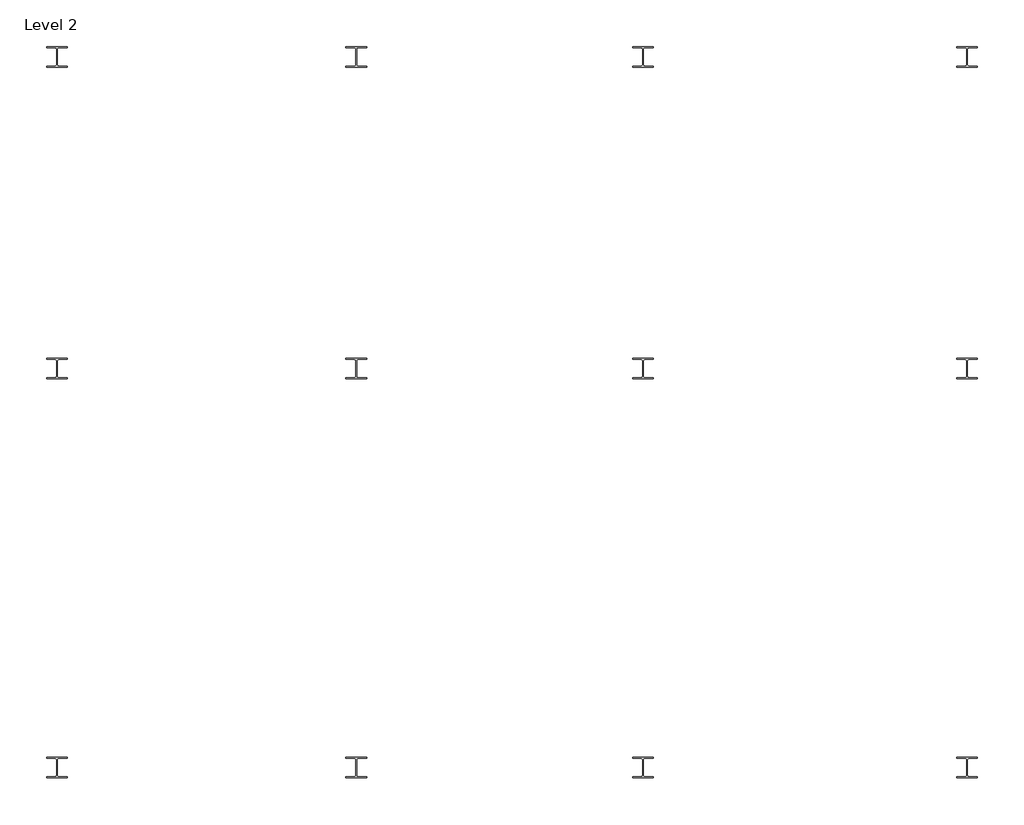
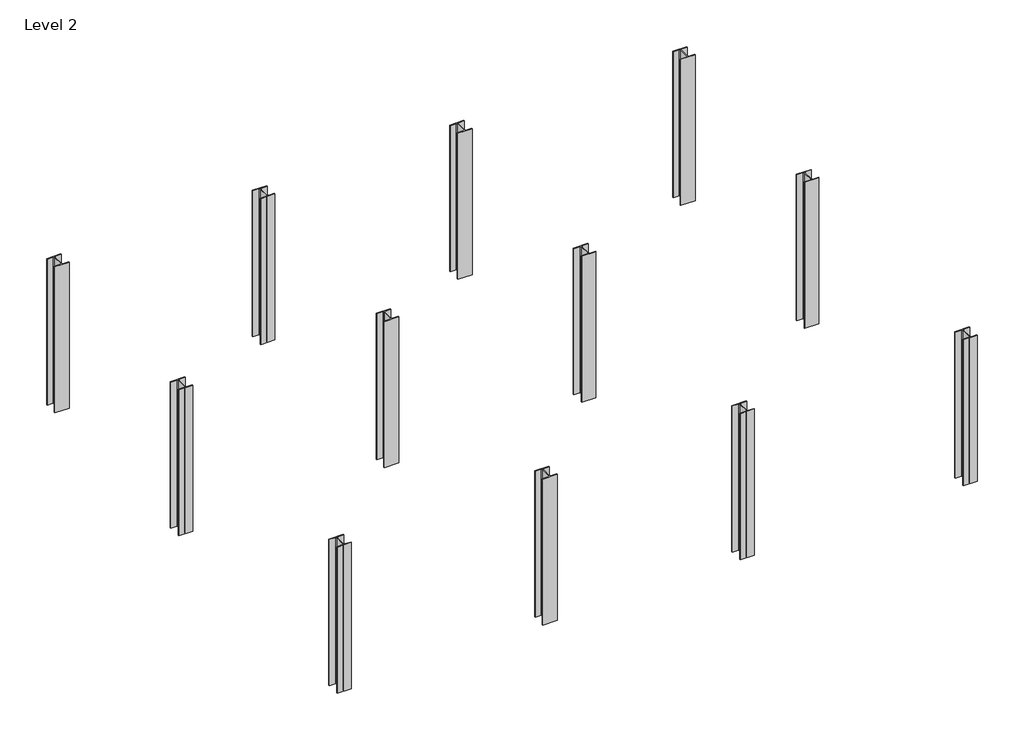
# One storey: 12 columns.
"""IFC4 building model written with IfcOpenShell, lengths in millimetres."""

import ifcopenshell
import ifcopenshell.guid

model = None  # the IFC model being written
_history = None  # IfcOwnerHistory: only IFC2X3 demands one
_inside = {}  # id of a spatial element -> (the spatial element, [elements in it])
_under = {}  # id of a project, library or spatial element -> (it, [spatial elements below it])
_declared = {}  # id of a project -> (the project, [libraries it declares])
_typed = {}  # id of a type object -> (the type object, [elements of that type])
_made_of = {}  # id of a material, layer set ... -> (it, [elements and type objects made of it])


def new_model(schema):
    """Start an empty IFC model of exactly this schema.

    Asked for "IFC4X3", IfcOpenShell would pick the latest addendum, in which some entities
    have other attributes; the version numbers below select the first issue.
    IFC2X3 requires an IfcOwnerHistory on every rooted entity: one is made here for all.
    """
    global model, _history
    if schema == "IFC4X3":
        model = ifcopenshell.file(schema_version=(4, 3, 0, 0))
    else:
        model = ifcopenshell.file(schema=schema)
    _inside.clear()
    _under.clear()
    _declared.clear()
    _typed.clear()
    _made_of.clear()
    _history = None
    if model.schema == "IFC2X3":
        org = make("IfcOrganization", Name="unknown")
        user = make(
            "IfcPersonAndOrganization",
            ThePerson=make("IfcPerson", FamilyName="unknown"),
            TheOrganization=org,
        )
        app = make(
            "IfcApplication",
            ApplicationDeveloper=org,
            Version="unknown",
            ApplicationFullName="unknown",
            ApplicationIdentifier="unknown",
        )
        _history = make(
            "IfcOwnerHistory",
            OwningUser=user,
            OwningApplication=app,
            ChangeAction="ADDED",
            CreationDate=0,
        )
    return model


def make(cls, **values):
    """One entity of the class cls with the attributes given. An attribute that is None is left unset."""
    return model.create_entity(
        cls, **{name: value for name, value in values.items() if value is not None}
    )


def rooted(cls, **values):
    """An entity with a GlobalId (a new one), such as an element, a storey or a relation."""
    return make(cls, GlobalId=ifcopenshell.guid.new(), OwnerHistory=_history, **values)


def si_unit(unit_type, name, prefix=None):
    """IfcSIUnit, for example si_unit("LENGTHUNIT", "METRE", prefix="MILLI")."""
    return make("IfcSIUnit", UnitType=unit_type, Prefix=prefix, Name=name)


def assignment(units):
    """IfcUnitAssignment: the units of a project."""
    return None if units is None else make("IfcUnitAssignment", Units=units)


def point(xyz):
    """IfcCartesianPoint."""
    return None if xyz is None else make("IfcCartesianPoint", Coordinates=xyz)


def direction(xyz):
    """IfcDirection."""
    return None if xyz is None else make("IfcDirection", DirectionRatios=xyz)


def frame(location, z_axis=None, x_axis=None):
    """IfcAxis2Placement3D, a coordinate frame: its origin and axes. An axis left out is left unset."""
    return make(
        "IfcAxis2Placement3D",
        Location=point(location),
        Axis=direction(z_axis),
        RefDirection=direction(x_axis),
    )


def frame_2d(location, x_axis=None):
    """IfcAxis2Placement2D, a coordinate frame in the plane: its origin and x axis."""
    return make(
        "IfcAxis2Placement2D", Location=point(location), RefDirection=direction(x_axis)
    )


def origin():
    """The frame at (0, 0, 0) with its axes left unset."""
    return frame((0.0, 0.0, 0.0))


def place(relative_to, where):
    """IfcLocalPlacement: puts the frame where relative to a parent placement (None: the world)."""
    return make(
        "IfcLocalPlacement", PlacementRelTo=relative_to, RelativePlacement=where
    )


def context(
    kind, dimensions, precision=None, world=None, true_north=None, identifier=None
):
    """IfcGeometricRepresentationContext, for example the 3D "Model" context."""
    return make(
        "IfcGeometricRepresentationContext",
        ContextIdentifier=identifier,
        ContextType=kind,
        CoordinateSpaceDimension=dimensions,
        Precision=precision,
        WorldCoordinateSystem=world,
        TrueNorth=true_north,
    )


def project(units=None, contexts=None):
    """IfcProject with its units and contexts."""
    return rooted(
        "IfcProject",
        Name="project",
        RepresentationContexts=contexts,
        UnitsInContext=assignment(units),
    )


def spatial(cls, under=None, at=None, **own):
    """A site, building, storey or space (cls), placed at a placement, below another one or the project."""
    s = rooted(cls, ObjectPlacement=at, **own)
    if under is not None:
        _under.setdefault(under.id(), (under, []))[1].append(s)
    return s


def polyline(points):
    """IfcPolyline through the points."""
    return make("IfcPolyline", Points=[point(p) for p in points])


def circle_curve(where, radius):
    """IfcCircle in the frame where."""
    return make("IfcCircle", Position=where, Radius=radius)


def trimmed(basis, trim1, trim2, sense, master):
    """IfcTrimmedCurve: the piece of a basis curve between two trims."""
    return make(
        "IfcTrimmedCurve",
        BasisCurve=basis,
        Trim1=trim1,
        Trim2=trim2,
        SenseAgreement=sense,
        MasterRepresentation=master,
    )


def segment(curve, same_sense, transition):
    """IfcCompositeCurveSegment."""
    return make(
        "IfcCompositeCurveSegment",
        Transition=transition,
        SameSense=same_sense,
        ParentCurve=curve,
    )


def composite_curve(segments, self_intersect=None):
    """IfcCompositeCurve: segments joined end to end."""
    return make("IfcCompositeCurve", Segments=segments, SelfIntersect=self_intersect)


def outline(outer, holes=None, kind="AREA"):
    """IfcArbitraryClosedProfileDef: a profile drawn as a closed curve; with holes, ...WithVoids."""
    if holes is None:
        return make("IfcArbitraryClosedProfileDef", ProfileType=kind, OuterCurve=outer)
    return make(
        "IfcArbitraryProfileDefWithVoids",
        ProfileType=kind,
        OuterCurve=outer,
        InnerCurves=holes,
    )


def extrude(swept, where, along, depth):
    """IfcExtrudedAreaSolid: the profile swept, set in the frame where, extruded along a direction by depth."""
    return make(
        "IfcExtrudedAreaSolid",
        SweptArea=swept,
        Position=where,
        ExtrudedDirection=direction(along),
        Depth=depth,
    )


def shape(context_of_items, identifier, shape_type, items):
    """IfcShapeRepresentation: the items that make up one representation, for example the "Body"."""
    return make(
        "IfcShapeRepresentation",
        ContextOfItems=context_of_items,
        RepresentationIdentifier=identifier,
        RepresentationType=shape_type,
        Items=items,
    )


def source(mapping_origin, context_of_items, identifier, shape_type, items):
    """IfcRepresentationMap: a shape defined once, which mapped items show again and again."""
    return make(
        "IfcRepresentationMap",
        MappingOrigin=mapping_origin,
        MappedRepresentation=shape(context_of_items, identifier, shape_type, items),
    )


def transform(
    local_origin,
    x_axis=None,
    y_axis=None,
    z_axis=None,
    scale=None,
    scale2=None,
    scale3=None,
    uniform=True,
):
    """IfcCartesianTransformationOperator3D, or its non-uniform kind. x_axis, y_axis, z_axis: its Axis1, 2, 3."""
    if uniform:
        return make(
            "IfcCartesianTransformationOperator3D",
            Axis1=direction(x_axis),
            Axis2=direction(y_axis),
            LocalOrigin=point(local_origin),
            Scale=scale,
            Axis3=direction(z_axis),
        )
    return make(
        "IfcCartesianTransformationOperator3DnonUniform",
        Axis1=direction(x_axis),
        Axis2=direction(y_axis),
        LocalOrigin=point(local_origin),
        Scale=scale,
        Axis3=direction(z_axis),
        Scale2=scale2,
        Scale3=scale3,
    )


def mapped(mapping_source, mapping_target):
    """IfcMappedItem: shows the shape of a source again, moved by a transform."""
    return make(
        "IfcMappedItem", MappingSource=mapping_source, MappingTarget=mapping_target
    )


def made_of(thing, what):
    """Note that an element or type object is made of a material, layer set ...; save() writes the relation."""
    if what is not None:
        _made_of.setdefault(what.id(), (what, []))[1].append(thing)
    return thing


def element(
    cls,
    number,
    at=None,
    inside=None,
    cuts=None,
    type_object=None,
    material=None,
    context=None,
    identifier="Body",
    shape_type=None,
    held_by="IfcProductDefinitionShape",
    body=None,
    shapes=None,
    **own,
):
    """One element of the class cls, such as IfcWall. Its Tag is "e" and its number.

    at: its placement. inside: the storey or other place that contains it. cuts: it is an
    opening in that element (IfcRelVoidsElement). A single representation is given by context,
    identifier, shape_type and body (its items); several are given by shapes. held_by: the class
    of the entity that holds the representations. save() writes the other relations.
    """
    e = rooted(cls, Tag="e%d" % number, ObjectPlacement=at, **own)
    if body is not None:
        shapes = [shape(context, identifier, shape_type, body)]
    if shapes is not None:
        e.Representation = make(held_by, Representations=shapes)
    if inside is not None:
        _inside.setdefault(inside.id(), (inside, []))[1].append(e)
    if cuts is not None:
        rooted(
            "IfcRelVoidsElement", RelatingBuildingElement=cuts, RelatedOpeningElement=e
        )
    if type_object is not None:
        _typed.setdefault(type_object.id(), (type_object, []))[1].append(e)
    return made_of(e, material)


def aggregate(whole, parts):
    """IfcRelAggregates: a whole, such as a stair, and the parts it consists of."""
    return rooted("IfcRelAggregates", RelatingObject=whole, RelatedObjects=parts)


def save(model, path):
    """Write the relations noted so far, then the file.

    IfcRelAggregates (storeys below a building ...), IfcRelContainedInSpatialStructure (elements
    in a storey), IfcRelDefinesByType, IfcRelAssociatesMaterial and IfcRelDeclares: one each for
    every whole, place, type object, material and project.
    """
    for whole, parts in _under.values():
        aggregate(whole, parts)
    for where, things in _inside.values():
        rooted(
            "IfcRelContainedInSpatialStructure",
            RelatedElements=things,
            RelatingStructure=where,
        )
    for kind, things in _typed.values():
        rooted("IfcRelDefinesByType", RelatedObjects=things, RelatingType=kind)
    for what, things in _made_of.values():
        rooted("IfcRelAssociatesMaterial", RelatedObjects=things, RelatingMaterial=what)
    for by, libraries in _declared.values():
        rooted("IfcRelDeclares", RelatingContext=by, RelatedDefinitions=libraries)
    model.write(path)


def w_wide_flange_column_w10x49_e1ac2cb3(model_context):
    return source(origin(), model_context, "Body", "SweptSolid", [
        extrude(outline(composite_curve([segment(polyline([(127.0, 126.7519531), (127.0, 112.5636719), (21.8777344, 112.5636719)]), True, "CONTINUOUS"), segment(trimmed(circle_curve(frame_2d((21.8777344, 95.0019531)), 17.5617188), [point((21.8777344, 112.5636719))], [point((4.3160156, 95.0019531))], True, "CARTESIAN"), True, "CONTINUOUS"), segment(polyline([(4.3160156, 95.0019531), (4.3160156, -95.0019531)]), True, "CONTINUOUS"), segment(trimmed(circle_curve(frame_2d((21.8777344, -95.0019531)), 17.5617187), [point((4.3160156, -95.0019531))], [point((21.8777344, -112.5636719))], True, "CARTESIAN"), True, "CONTINUOUS"), segment(polyline([(21.8777344, -112.5636719), (127.0, -112.5636719), (127.0, -126.7519531), (-127.0, -126.7519531), (-127.0, -112.5636719), (-21.8777344, -112.5636719)]), True, "CONTINUOUS"), segment(trimmed(circle_curve(frame_2d((-21.8777344, -95.0019531)), 17.5617187), [point((-21.8777344, -112.5636719))], [point((-4.3160156, -95.0019531))], True, "CARTESIAN"), True, "CONTINUOUS"), segment(polyline([(-4.3160156, -95.0019531), (-4.3160156, 95.0019531)]), True, "CONTINUOUS"), segment(trimmed(circle_curve(frame_2d((-21.8777344, 95.0019531)), 17.5617188), [point((-4.3160156, 95.0019531))], [point((-21.8777344, 112.5636719))], True, "CARTESIAN"), True, "CONTINUOUS"), segment(polyline([(-21.8777344, 112.5636719), (-127.0, 112.5636719), (-127.0, 126.7519531), (127.0, 126.7519531)]), True, "CONTINUOUS")], self_intersect=False)), frame((0.0, 0.0, 304.8), z_axis=(0.0, 0.0, 1.0), x_axis=(1.0, 0.0, 0.0)), (0.0, 0.0, 1.0), 2743.2),
    ])


model = new_model("IFC4")

# Units and contexts
model_context = context("Model", 3, world=origin())
ifc_project = project(units=[si_unit("LENGTHUNIT", "METRE", prefix="MILLI")], contexts=[model_context])

# Site, building, storey
site = spatial("IfcSite", under=ifc_project)
building = spatial("IfcBuilding", under=site)
storey = spatial("IfcBuildingStorey", under=building, Name="Level 2", Elevation=3048.0)

# Columns
placement = place(None, origin())
w_wide_flange_column_w10x49_shape = w_wide_flange_column_w10x49_e1ac2cb3(model_context)
element("IfcColumn", 1, ObjectType="W-Wide Flange-Column : W10X49", at=placement, inside=storey, context=model_context, shape_type="MappedRepresentation", body=[
    mapped(w_wide_flange_column_w10x49_shape, transform((-14865.9414285, 19321.7403934, 0.0), x_axis=(1.0, 0.0, 0.0), y_axis=(0.0, 1.0, 0.0), z_axis=(0.0, 0.0, 1.0))),
])
element("IfcColumn", 2, ObjectType="W-Wide Flange-Column : W10X49", at=placement, inside=storey, context=model_context, shape_type="MappedRepresentation", body=[
    mapped(w_wide_flange_column_w10x49_shape, transform((-14865.9414285, 15511.7403934, 0.0), x_axis=(1.0, 0.0, 0.0), y_axis=(0.0, 1.0, 0.0), z_axis=(0.0, 0.0, 1.0))),
])
element("IfcColumn", 3, ObjectType="W-Wide Flange-Column : W10X49", at=placement, inside=storey, context=model_context, shape_type="MappedRepresentation", body=[
    mapped(w_wide_flange_column_w10x49_shape, transform((-14865.9414285, 10634.9403934, 0.0), x_axis=(1.0, 0.0, 0.0), y_axis=(0.0, 1.0, 0.0), z_axis=(0.0, 0.0, 1.0))),
])
element("IfcColumn", 4, ObjectType="W-Wide Flange-Column : W10X49", at=placement, inside=storey, context=model_context, shape_type="MappedRepresentation", body=[
    mapped(w_wide_flange_column_w10x49_shape, transform((-11208.3414285, 19321.7403934, 0.0), x_axis=(1.0, 0.0, 0.0), y_axis=(0.0, 1.0, 0.0), z_axis=(0.0, 0.0, 1.0))),
])
element("IfcColumn", 5, ObjectType="W-Wide Flange-Column : W10X49", at=placement, inside=storey, context=model_context, shape_type="MappedRepresentation", body=[
    mapped(w_wide_flange_column_w10x49_shape, transform((-7703.1414285, 19321.7403934, 0.0), x_axis=(1.0, 0.0, 0.0), y_axis=(0.0, 1.0, 0.0), z_axis=(0.0, 0.0, 1.0))),
])
element("IfcColumn", 6, ObjectType="W-Wide Flange-Column : W10X49", at=placement, inside=storey, context=model_context, shape_type="MappedRepresentation", body=[
    mapped(w_wide_flange_column_w10x49_shape, transform((-3740.7414285, 19321.7403934, 0.0), x_axis=(1.0, 0.0, 0.0), y_axis=(0.0, 1.0, 0.0), z_axis=(0.0, 0.0, 1.0))),
])
element("IfcColumn", 7, ObjectType="W-Wide Flange-Column : W10X49", at=placement, inside=storey, context=model_context, shape_type="MappedRepresentation", body=[
    mapped(w_wide_flange_column_w10x49_shape, transform((-11208.3414285, 15511.7403934, 0.0), x_axis=(1.0, 0.0, 0.0), y_axis=(0.0, 1.0, 0.0), z_axis=(0.0, 0.0, 1.0))),
])
element("IfcColumn", 8, ObjectType="W-Wide Flange-Column : W10X49", at=placement, inside=storey, context=model_context, shape_type="MappedRepresentation", body=[
    mapped(w_wide_flange_column_w10x49_shape, transform((-11208.3414285, 10634.9403934, 0.0), x_axis=(1.0, 0.0, 0.0), y_axis=(0.0, 1.0, 0.0), z_axis=(0.0, 0.0, 1.0))),
])
element("IfcColumn", 9, ObjectType="W-Wide Flange-Column : W10X49", at=placement, inside=storey, context=model_context, shape_type="MappedRepresentation", body=[
    mapped(w_wide_flange_column_w10x49_shape, transform((-7703.1414285, 15511.7403934, 0.0), x_axis=(1.0, 0.0, 0.0), y_axis=(0.0, 1.0, 0.0), z_axis=(0.0, 0.0, 1.0))),
])
element("IfcColumn", 10, ObjectType="W-Wide Flange-Column : W10X49", at=placement, inside=storey, context=model_context, shape_type="MappedRepresentation", body=[
    mapped(w_wide_flange_column_w10x49_shape, transform((-7703.1414285, 10634.9403934, 0.0), x_axis=(1.0, 0.0, 0.0), y_axis=(0.0, 1.0, 0.0), z_axis=(0.0, 0.0, 1.0))),
])
element("IfcColumn", 11, ObjectType="W-Wide Flange-Column : W10X49", at=placement, inside=storey, context=model_context, shape_type="MappedRepresentation", body=[
    mapped(w_wide_flange_column_w10x49_shape, transform((-3740.7414285, 15511.7403934, 0.0), x_axis=(1.0, 0.0, 0.0), y_axis=(0.0, 1.0, 0.0), z_axis=(0.0, 0.0, 1.0))),
])
element("IfcColumn", 12, ObjectType="W-Wide Flange-Column : W10X49", at=placement, inside=storey, context=model_context, shape_type="MappedRepresentation", body=[
    mapped(w_wide_flange_column_w10x49_shape, transform((-3740.7414285, 10634.9403934, 0.0), x_axis=(1.0, 0.0, 0.0), y_axis=(0.0, 1.0, 0.0), z_axis=(0.0, 0.0, 1.0))),
])

save(model, "model.ifc")
